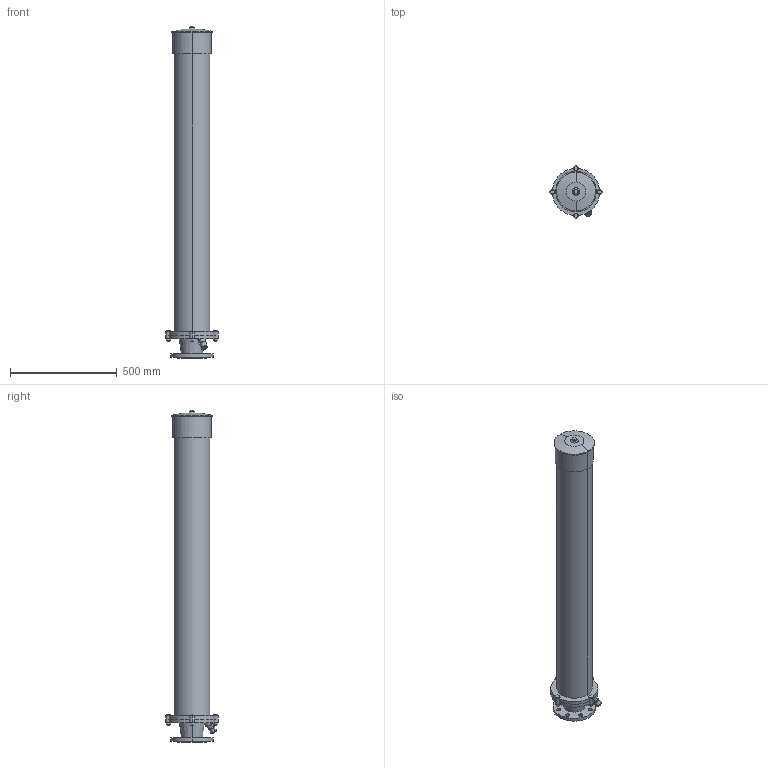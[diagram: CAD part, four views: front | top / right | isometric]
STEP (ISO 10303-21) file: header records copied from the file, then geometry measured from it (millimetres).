
FILE_DESCRIPTION(('STEP AP214'),'1');
FILE_NAME('S:/EK/USER/CAT6/3DHomepage/9822/9822-PN16-DN80-1555.STP','2012-04-26T08:11:22',(' '),(' '),'Spatial InterOp 3D',' ',' ');
FILE_SCHEMA(('automotive_design'));
Length unit declared in the file: millimetre
Products named in the file (37): 3D-Objekt
Bounding box: 245 x 245 x 1555 mm (x, y, z)
Volume: 34195280.3 mm3; surface area: 1317702.2 mm2
Topology: 37 solids, 37 shells, 204 faces, 392 edges, 260 vertices
Faces by surface type: plane 126, cylinder 62, cone 12, torus 4
Entity records: 7729 total; most frequent: DIRECTION 1030, CARTESIAN_POINT 893, ORIENTED_EDGE 784, AXIS2_PLACEMENT_3D 397, EDGE_CURVE 392, VERTEX_POINT 260, STYLED_ITEM 241, PRESENTATION_STYLE_ASSIGNMENT 241
